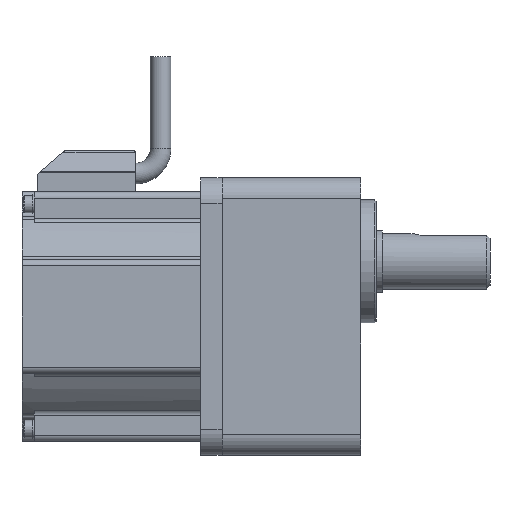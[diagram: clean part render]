
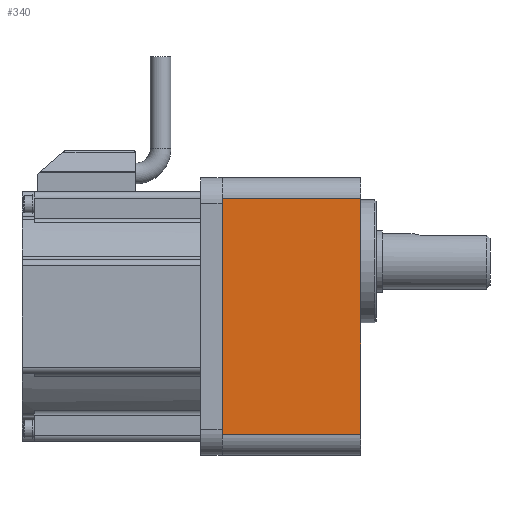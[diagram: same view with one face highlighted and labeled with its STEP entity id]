
A CAD part, top view. The second image highlights one B-rep face of the part: STEP entity #340.
In plain terms, the highlighted planar face has unit normal (0, 0, 1) as drawn and (0, 0, -1) by its records, which use the part's own axes.
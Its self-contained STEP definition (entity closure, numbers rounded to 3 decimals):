
#340 = ADVANCED_FACE( '', ( #768 ), #769, .F. );
#768 = FACE_OUTER_BOUND( '', #1220, .T. );
#769 = PLANE( '', #1221 );
#1220 = EDGE_LOOP( '', ( #2610, #2611, #2612, #2613 ) );
#1221 = AXIS2_PLACEMENT_3D( '', #2614, #2615, #2616 );
#2610 = ORIENTED_EDGE( '', *, *, #3136, .T. );
#2611 = ORIENTED_EDGE( '', *, *, #3143, .F. );
#2612 = ORIENTED_EDGE( '', *, *, #3126, .F. );
#2613 = ORIENTED_EDGE( '', *, *, #3144, .T. );
#2614 = CARTESIAN_POINT( '', ( 45., -38.2, -45. ) );
#2615 = DIRECTION( '', ( 0., 0., 1. ) );
#2616 = DIRECTION( '', ( 1., 0., 0. ) );
#3126 = EDGE_CURVE( '', #3862, #3864, #3865, .T. );
#3136 = EDGE_CURVE( '', #3884, #3882, #3885, .T. );
#3143 = EDGE_CURVE( '', #3864, #3882, #3895, .T. );
#3144 = EDGE_CURVE( '', #3862, #3884, #3896, .T. );
#3862 = VERTEX_POINT( '', #4911 );
#3864 = VERTEX_POINT( '', #4913 );
#3865 = LINE( '', #4914, #4915 );
#3882 = VERTEX_POINT( '', #4934 );
#3884 = VERTEX_POINT( '', #4936 );
#3885 = LINE( '', #4937, #4938 );
#3895 = LINE( '', #4952, #4953 );
#3896 = LINE( '', #4954, #4955 );
#4911 = CARTESIAN_POINT( '', ( 45., -38.2, -45. ) );
#4913 = CARTESIAN_POINT( '', ( 45., 38.2, -45. ) );
#4914 = CARTESIAN_POINT( '', ( 45., -38.2, -45. ) );
#4915 = VECTOR( '', #5703, 1000. );
#4934 = CARTESIAN_POINT( '', ( 0., 38.2, -45. ) );
#4936 = CARTESIAN_POINT( '', ( 0., -38.2, -45. ) );
#4937 = CARTESIAN_POINT( '', ( 0., -38.2, -45. ) );
#4938 = VECTOR( '', #5727, 1000. );
#4952 = CARTESIAN_POINT( '', ( 45., 38.2, -45. ) );
#4953 = VECTOR( '', #5738, 1000. );
#4954 = CARTESIAN_POINT( '', ( 45., -38.2, -45. ) );
#4955 = VECTOR( '', #5739, 1000. );
#5703 = DIRECTION( '', ( 0., 1., 0. ) );
#5727 = DIRECTION( '', ( 0., 1., 0. ) );
#5738 = DIRECTION( '', ( -1., 0., 0. ) );
#5739 = DIRECTION( '', ( -1., 0., 0. ) );
